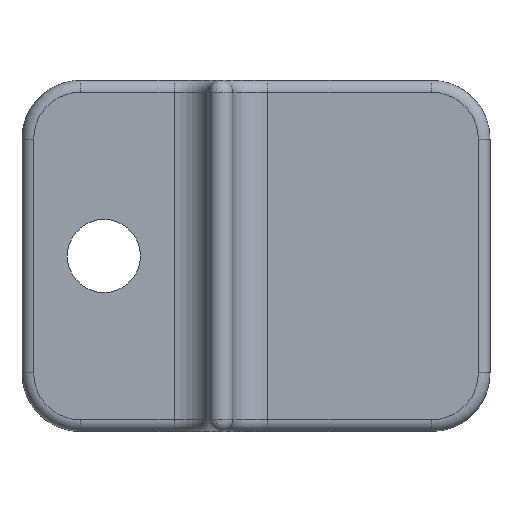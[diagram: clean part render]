
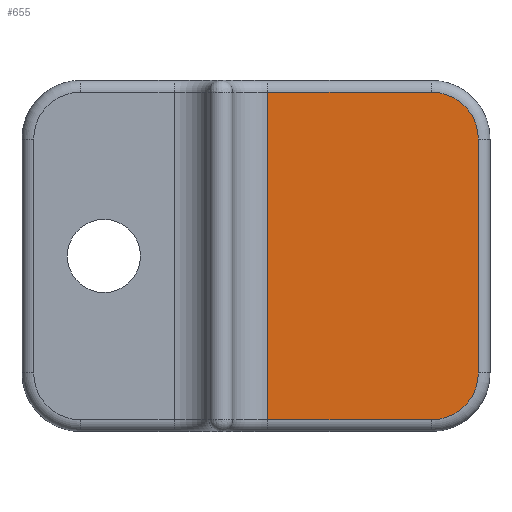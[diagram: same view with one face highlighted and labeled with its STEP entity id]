
A CAD part, left-side view. The second image highlights one B-rep face of the part: STEP entity #655.
In plain terms, the highlighted planar face has unit normal (-1, 0, 0).
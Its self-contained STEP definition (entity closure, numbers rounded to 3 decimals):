
#22 = CIRCLE ( 'NONE', #146, 4. ) ;
#25 = ORIENTED_EDGE ( 'NONE', *, *, #286, .T. ) ;
#27 = CARTESIAN_POINT ( 'NONE',  ( -6.5, 19., 29. ) ) ;
#40 = VERTEX_POINT ( 'NONE', #1164 ) ;
#43 = CARTESIAN_POINT ( 'NONE',  ( -6.5, 19., 29. ) ) ;
#70 = LINE ( 'NONE', #313, #770 ) ;
#91 = CARTESIAN_POINT ( 'NONE',  ( -6.5, 5., 1. ) ) ;
#116 = DIRECTION ( 'NONE',  ( 0., 1., 0. ) ) ;
#139 = ORIENTED_EDGE ( 'NONE', *, *, #434, .T. ) ;
#146 = AXIS2_PLACEMENT_3D ( 'NONE', #1108, #210, #116 ) ;
#148 = VERTEX_POINT ( 'NONE', #598 ) ;
#210 = DIRECTION ( 'NONE',  ( -1., 0., 0. ) ) ;
#221 = EDGE_CURVE ( 'NONE', #1114, #1221, #70, .T. ) ;
#225 = LINE ( 'NONE', #27, #405 ) ;
#240 = EDGE_CURVE ( 'NONE', #941, #148, #411, .T. ) ;
#286 = EDGE_CURVE ( 'NONE', #148, #436, #1308, .T. ) ;
#295 = CARTESIAN_POINT ( 'NONE',  ( -6.5, 19., 30. ) ) ;
#313 = CARTESIAN_POINT ( 'NONE',  ( -6.5, 1., 30. ) ) ;
#316 = EDGE_CURVE ( 'NONE', #1221, #40, #1433, .T. ) ;
#405 = VECTOR ( 'NONE', #902, 1000. ) ;
#408 = DIRECTION ( 'NONE',  ( 1., 0., 0. ) ) ;
#411 = LINE ( 'NONE', #1181, #949 ) ;
#423 = CARTESIAN_POINT ( 'NONE',  ( -6.5, 5., 1. ) ) ;
#434 = EDGE_CURVE ( 'NONE', #436, #1114, #22, .T. ) ;
#436 = VERTEX_POINT ( 'NONE', #423 ) ;
#518 = PLANE ( 'NONE',  #1226 ) ;
#532 = CARTESIAN_POINT ( 'NONE',  ( -6.5, 5., 25. ) ) ;
#598 = CARTESIAN_POINT ( 'NONE',  ( -6.5, 19., 1. ) ) ;
#655 = ADVANCED_FACE ( 'NONE', ( #1094 ), #518, .F. ) ;
#714 = ORIENTED_EDGE ( 'NONE', *, *, #316, .T. ) ;
#715 = ORIENTED_EDGE ( 'NONE', *, *, #871, .T. ) ;
#756 = DIRECTION ( 'NONE',  ( -1., 0., 0. ) ) ;
#770 = VECTOR ( 'NONE', #1211, 1000. ) ;
#852 = DIRECTION ( 'NONE',  ( 0., 1., 0. ) ) ;
#864 = CARTESIAN_POINT ( 'NONE',  ( -6.5, 1., 5. ) ) ;
#871 = EDGE_CURVE ( 'NONE', #40, #941, #225, .T. ) ;
#902 = DIRECTION ( 'NONE',  ( 0., 1., 0. ) ) ;
#941 = VERTEX_POINT ( 'NONE', #43 ) ;
#942 = ORIENTED_EDGE ( 'NONE', *, *, #240, .T. ) ;
#949 = VECTOR ( 'NONE', #1218, 1000. ) ;
#980 = DIRECTION ( 'NONE',  ( 0., 1., 0. ) ) ;
#988 = AXIS2_PLACEMENT_3D ( 'NONE', #532, #756, #980 ) ;
#1011 = CARTESIAN_POINT ( 'NONE',  ( -6.5, 1., 25. ) ) ;
#1070 = DIRECTION ( 'NONE',  ( 0., -1., 0. ) ) ;
#1094 = FACE_OUTER_BOUND ( 'NONE', #1146, .T. ) ;
#1108 = CARTESIAN_POINT ( 'NONE',  ( -6.5, 5., 5. ) ) ;
#1114 = VERTEX_POINT ( 'NONE', #864 ) ;
#1146 = EDGE_LOOP ( 'NONE', ( #714, #715, #942, #25, #139, #1153 ) ) ;
#1153 = ORIENTED_EDGE ( 'NONE', *, *, #221, .T. ) ;
#1164 = CARTESIAN_POINT ( 'NONE',  ( -6.5, 5., 29. ) ) ;
#1170 = VECTOR ( 'NONE', #1070, 1000. ) ;
#1181 = CARTESIAN_POINT ( 'NONE',  ( -6.5, 19., 30. ) ) ;
#1211 = DIRECTION ( 'NONE',  ( 0., 0., 1. ) ) ;
#1218 = DIRECTION ( 'NONE',  ( 0., 0., -1. ) ) ;
#1221 = VERTEX_POINT ( 'NONE', #1011 ) ;
#1226 = AXIS2_PLACEMENT_3D ( 'NONE', #295, #408, #852 ) ;
#1308 = LINE ( 'NONE', #91, #1170 ) ;
#1433 = CIRCLE ( 'NONE', #988, 4. ) ;
